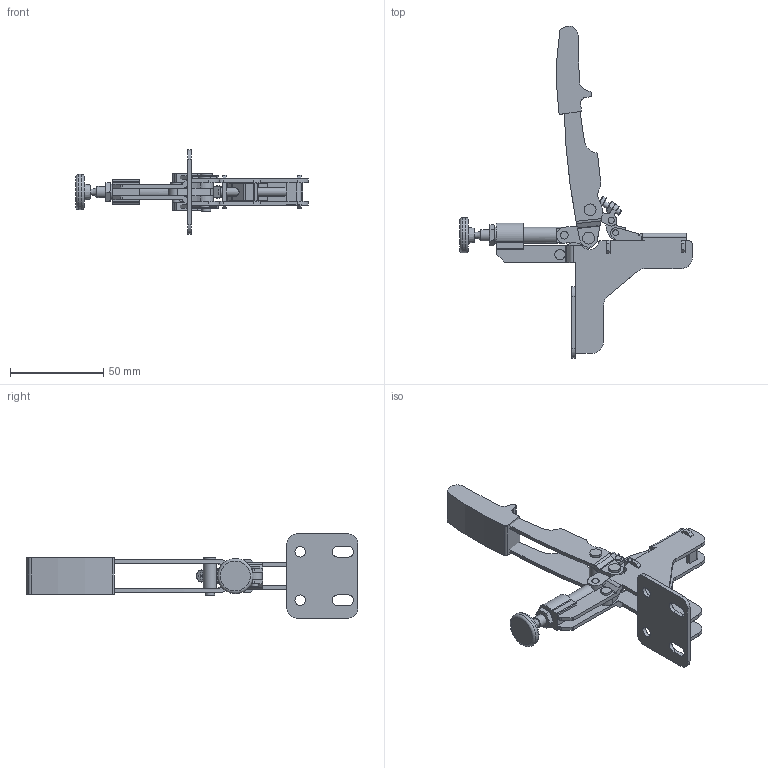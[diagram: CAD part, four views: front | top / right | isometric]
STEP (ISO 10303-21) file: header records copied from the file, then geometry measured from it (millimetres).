
FILE_DESCRIPTION( ( 'STEP AP203' ), '1' );
FILE_NAME( 'x:/temp/worker_4/temp/exporttempdir_6108_3_wG7ZF/format_3/BESSEY (STC-IHA151).stp', '2020-10-21T09:30:22', ( 'License CC BY-ND 4.0' ), ( 'CADENAS' ), ' ', 'PARTsolutions', ' ' );
FILE_SCHEMA( ( 'CONFIG_CONTROL_DESIGN' ) );
Length unit declared in the file: millimetre
Products named in the file (10): BESSEY (STC-IHA151); _STC-IHA151-1; _STC-IHA151-4; _STC-IHA151-5; _STC-IHA151-7; _STC-IHA151-6; _STC-IHA151-3; _STC-IHA151-2; _STC-IHA15-9; _STC-IHA15-8
Assembly tree (9 placements, depth 2):
  BESSEY (STC-IHA151)
    _STC-IHA151-1
    _STC-IHA151-4
    _STC-IHA151-5
    _STC-IHA151-7
    _STC-IHA151-6
    _STC-IHA151-3
    _STC-IHA151-2
    _STC-IHA15-9
    _STC-IHA15-8
Bounding box: 124.69 x 178 x 45.09 mm (x, y, z)
Volume: 38530.3 mm3; surface area: 31075.4 mm2
Topology: 9 solids, 9 shells, 446 faces, 1217 edges, 809 vertices
Faces by surface type: plane 249, cylinder 182, cone 8, torus 6, bspline 1
Full cylindrical faces by diameter (mm): 2 x2, 2.26 x1, 3 x5, 3.073 x2, 3.1 x2, 3.34 x2, 4 x3, 4.064 x5, 5 x4, 5.004 x1, 5.105 x1, 5.588 x2, 5.6 x2, 6 x1, 6.35 x4, 6.5 x1, 7.112 x1, 8.5 x1, 8.6 x1, 13.8 x1, 18.957 x1
Entity records: 14341 total; most frequent: CARTESIAN_POINT 2634, DIRECTION 2425, ORIENTED_EDGE 2288, EDGE_CURVE 1144, AXIS2_PLACEMENT_3D 862, VERTEX_POINT 795, LINE 701, VECTOR 701
